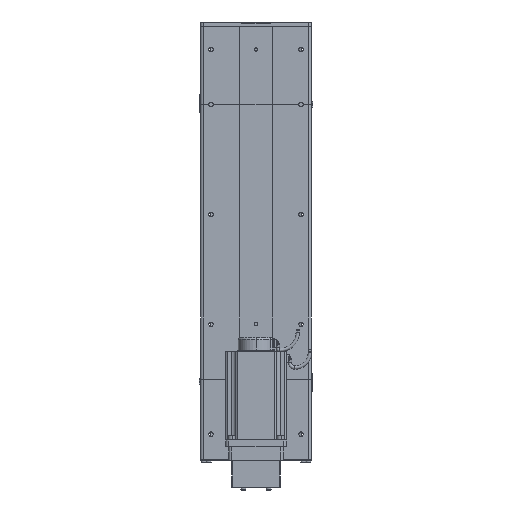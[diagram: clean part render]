
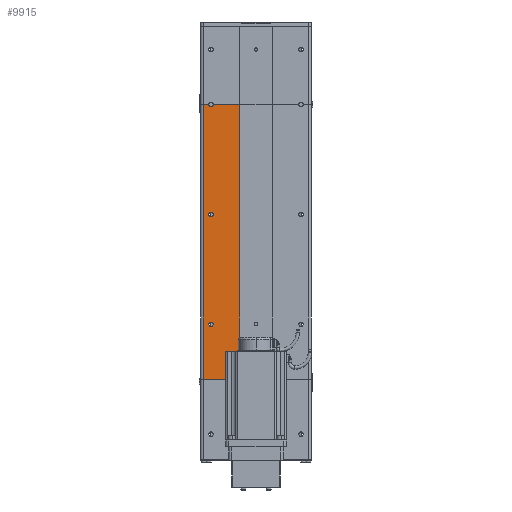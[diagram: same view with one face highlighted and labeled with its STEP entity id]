
A CAD part, front view. The second image highlights one B-rep face of the part: STEP entity #9915.
In plain terms, the highlighted planar face has unit normal (0, -1, 0).
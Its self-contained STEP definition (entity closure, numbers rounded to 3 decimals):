
#2939 = FACE_BOUND ( 'NONE', #9920, .T. ) ;
#3549 = CIRCLE ( 'NONE', #3606, 4. ) ;
#3590 = FACE_BOUND ( 'NONE', #10151, .T. ) ;
#3603 = DIRECTION ( 'NONE',  ( 1., 0., 0. ) ) ;
#3604 = DIRECTION ( 'NONE',  ( 0., -1., 0. ) ) ;
#3605 = CARTESIAN_POINT ( 'NONE',  ( -82., -34.5, 300. ) ) ;
#3606 = AXIS2_PLACEMENT_3D ( 'NONE', #3605, #3604, #3603 ) ;
#3654 = CARTESIAN_POINT ( 'NONE',  ( -86., -34.5, 300. ) ) ;
#3680 = CARTESIAN_POINT ( 'NONE',  ( -78., -34.5, 100. ) ) ;
#3697 = VECTOR ( 'NONE', #3838, 1000. ) ;
#3698 = CARTESIAN_POINT ( 'NONE',  ( -96., -34.5, 500. ) ) ;
#3704 = CIRCLE ( 'NONE', #3708, 4. ) ;
#3708 = AXIS2_PLACEMENT_3D ( 'NONE', #3712, #3716, #3715 ) ;
#3712 = CARTESIAN_POINT ( 'NONE',  ( -82., -34.5, 100. ) ) ;
#3715 = DIRECTION ( 'NONE',  ( 1., 0., 0. ) ) ;
#3716 = DIRECTION ( 'NONE',  ( 0., -1., 0. ) ) ;
#3799 = CARTESIAN_POINT ( 'NONE',  ( -78., -34.5, 500. ) ) ;
#3801 = CARTESIAN_POINT ( 'NONE',  ( -86., -34.5, 100. ) ) ;
#3826 = LINE ( 'NONE', #3698, #3697 ) ;
#3838 = DIRECTION ( 'NONE',  ( 1., 0., 0. ) ) ;
#3840 = FACE_OUTER_BOUND ( 'NONE', #10149, .T. ) ;
#3872 = CARTESIAN_POINT ( 'NONE',  ( -78., -34.5, 300. ) ) ;
#4091 = CARTESIAN_POINT ( 'NONE',  ( -30., -34.5, 500. ) ) ;
#4348 = CARTESIAN_POINT ( 'NONE',  ( -82., -34.5, 100. ) ) ;
#4349 = AXIS2_PLACEMENT_3D ( 'NONE', #4348, #4358, #4357 ) ;
#4352 = DIRECTION ( 'NONE',  ( -1., 0., 0. ) ) ;
#4354 = CIRCLE ( 'NONE', #4349, 4. ) ;
#4357 = DIRECTION ( 'NONE',  ( 1., 0., 0. ) ) ;
#4358 = DIRECTION ( 'NONE',  ( 0., -1., 0. ) ) ;
#4359 = DIRECTION ( 'NONE',  ( 0., 1., 0. ) ) ;
#4360 = CARTESIAN_POINT ( 'NONE',  ( -96., -34.5, 500. ) ) ;
#4440 = PLANE ( 'NONE',  #4485 ) ;
#4485 = AXIS2_PLACEMENT_3D ( 'NONE', #4360, #4359, #4352 ) ;
#4553 = CARTESIAN_POINT ( 'NONE',  ( -86., -34.5, 500. ) ) ;
#4622 = CARTESIAN_POINT ( 'NONE',  ( -96., -34.5, 500. ) ) ;
#4777 = DIRECTION ( 'NONE',  ( 0., -1., 0. ) ) ;
#4782 = CIRCLE ( 'NONE', #4974, 4. ) ;
#4784 = DIRECTION ( 'NONE',  ( 1., 0., 0. ) ) ;
#4785 = VECTOR ( 'NONE', #4784, 1000. ) ;
#4786 = CARTESIAN_POINT ( 'NONE',  ( -96., -34.5, 0. ) ) ;
#4787 = LINE ( 'NONE', #4786, #4785 ) ;
#4870 = CARTESIAN_POINT ( 'NONE',  ( -30., -34.5, 0. ) ) ;
#4871 = DIRECTION ( 'NONE',  ( 0., 0., -1. ) ) ;
#4946 = DIRECTION ( 'NONE',  ( 0., 0., 1. ) ) ;
#4947 = VECTOR ( 'NONE', #4946, 1000. ) ;
#4955 = DIRECTION ( 'NONE',  ( 1., 0., 0. ) ) ;
#4972 = LINE ( 'NONE', #4973, #4947 ) ;
#4973 = CARTESIAN_POINT ( 'NONE',  ( -30., -34.5, 0. ) ) ;
#4974 = AXIS2_PLACEMENT_3D ( 'NONE', #4977, #4777, #4955 ) ;
#4975 = CARTESIAN_POINT ( 'NONE',  ( -96., -34.5, 0. ) ) ;
#4977 = CARTESIAN_POINT ( 'NONE',  ( -82., -34.5, 500. ) ) ;
#4979 = LINE ( 'NONE', #4981, #4980 ) ;
#4980 = VECTOR ( 'NONE', #4871, 1000. ) ;
#4981 = CARTESIAN_POINT ( 'NONE',  ( -96., -34.5, 500. ) ) ;
#5063 = DIRECTION ( 'NONE',  ( 1., 0., 0. ) ) ;
#5064 = VECTOR ( 'NONE', #5063, 1000. ) ;
#5065 = CARTESIAN_POINT ( 'NONE',  ( -96., -34.5, 500. ) ) ;
#5066 = LINE ( 'NONE', #5065, #5064 ) ;
#5710 = AXIS2_PLACEMENT_3D ( 'NONE', #5815, #5717, #5810 ) ;
#5717 = DIRECTION ( 'NONE',  ( 0., -1., 0. ) ) ;
#5810 = DIRECTION ( 'NONE',  ( 1., 0., 0. ) ) ;
#5815 = CARTESIAN_POINT ( 'NONE',  ( -82., -34.5, 300. ) ) ;
#5821 = CIRCLE ( 'NONE', #5710, 4. ) ;
#9601 = EDGE_CURVE ( 'NONE', #9667, #9795, #3549, .T. ) ;
#9645 = EDGE_CURVE ( 'NONE', #9680, #9682, #3704, .T. ) ;
#9667 = VERTEX_POINT ( 'NONE', #3654 ) ;
#9680 = VERTEX_POINT ( 'NONE', #3801 ) ;
#9682 = VERTEX_POINT ( 'NONE', #3680 ) ;
#9693 = VERTEX_POINT ( 'NONE', #3799 ) ;
#9743 = EDGE_CURVE ( 'NONE', #9693, #9835, #3826, .T. ) ;
#9795 = VERTEX_POINT ( 'NONE', #3872 ) ;
#9835 = VERTEX_POINT ( 'NONE', #4091 ) ;
#9915 = ADVANCED_FACE ( 'NONE', ( #2939, #3590, #3840 ), #4440, .F. ) ;
#9916 = ORIENTED_EDGE ( 'NONE', *, *, #9743, .F. ) ;
#9917 = EDGE_CURVE ( 'NONE', #9682, #9680, #4354, .T. ) ;
#9920 = EDGE_LOOP ( 'NONE', ( #10494, #9923 ) ) ;
#9923 = ORIENTED_EDGE ( 'NONE', *, *, #9601, .F. ) ;
#10016 = VERTEX_POINT ( 'NONE', #4553 ) ;
#10021 = VERTEX_POINT ( 'NONE', #4622 ) ;
#10062 = ORIENTED_EDGE ( 'NONE', *, *, #10140, .T. ) ;
#10132 = EDGE_CURVE ( 'NONE', #10021, #10153, #4979, .T. ) ;
#10133 = ORIENTED_EDGE ( 'NONE', *, *, #10148, .F. ) ;
#10134 = VERTEX_POINT ( 'NONE', #4870 ) ;
#10135 = ORIENTED_EDGE ( 'NONE', *, *, #10132, .T. ) ;
#10136 = ORIENTED_EDGE ( 'NONE', *, *, #10228, .F. ) ;
#10139 = ORIENTED_EDGE ( 'NONE', *, *, #10141, .T. ) ;
#10140 = EDGE_CURVE ( 'NONE', #10134, #9835, #4972, .T. ) ;
#10141 = EDGE_CURVE ( 'NONE', #10153, #10134, #4787, .T. ) ;
#10148 = EDGE_CURVE ( 'NONE', #10016, #9693, #4782, .T. ) ;
#10149 = EDGE_LOOP ( 'NONE', ( #9916, #10133, #10136, #10135, #10139, #10062 ) ) ;
#10151 = EDGE_LOOP ( 'NONE', ( #10157, #10154 ) ) ;
#10153 = VERTEX_POINT ( 'NONE', #4975 ) ;
#10154 = ORIENTED_EDGE ( 'NONE', *, *, #9645, .F. ) ;
#10157 = ORIENTED_EDGE ( 'NONE', *, *, #9917, .F. ) ;
#10228 = EDGE_CURVE ( 'NONE', #10021, #10016, #5066, .T. ) ;
#10462 = EDGE_CURVE ( 'NONE', #9795, #9667, #5821, .T. ) ;
#10494 = ORIENTED_EDGE ( 'NONE', *, *, #10462, .F. ) ;
